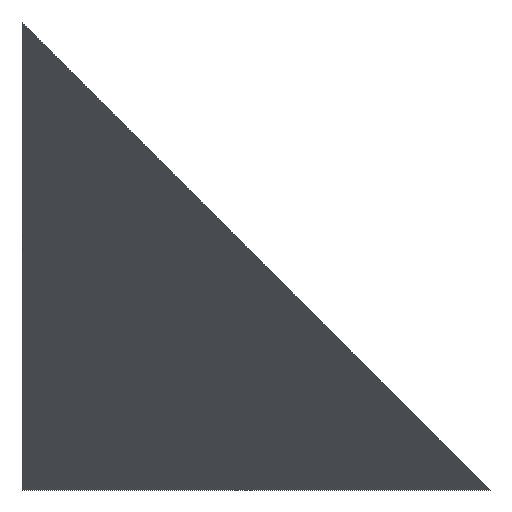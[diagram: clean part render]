
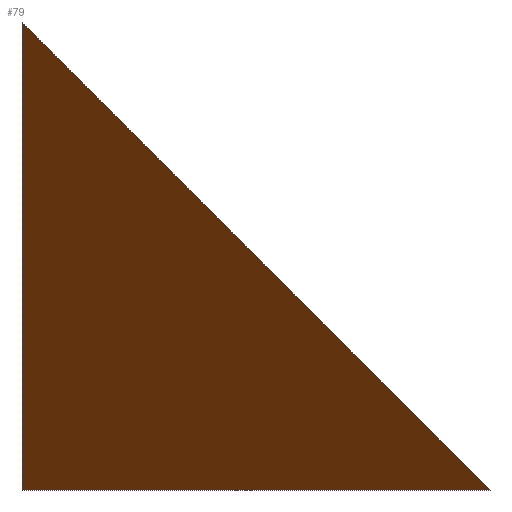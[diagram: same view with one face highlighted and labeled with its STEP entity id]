
A CAD part, front view. The second image highlights one B-rep face of the part: STEP entity #79.
In plain terms, the highlighted planar face has unit normal (0.577, 0.577, 0.577).
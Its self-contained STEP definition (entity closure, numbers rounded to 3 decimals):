
#2=CARTESIAN_POINT('',(10.,0.,0.));
#3=CARTESIAN_POINT('',(0.,10.,0.));
#4=CARTESIAN_POINT('',(0.,0.,10.));
#6=VERTEX_POINT('',#2);
#7=VERTEX_POINT('',#3);
#8=VERTEX_POINT('',#4);
#19=DIRECTION('',(-0.707,0.707,0.));
#20=VECTOR('',#19,1.);
#21=LINE('',#2,#20);
#22=DIRECTION('',(-0.707,0.,0.707));
#23=VECTOR('',#22,1.);
#24=LINE('',#2,#23);
#25=DIRECTION('',(0.,-0.707,0.707));
#26=VECTOR('',#25,1.);
#27=LINE('',#3,#26);
#33=EDGE_CURVE('',#6,#7,#21,.T.);
#34=EDGE_CURVE('',#6,#8,#24,.T.);
#35=EDGE_CURVE('',#7,#8,#27,.T.);
#70=ORIENTED_EDGE('',*,*,#33,.T.);
#71=ORIENTED_EDGE('',*,*,#35,.T.);
#72=ORIENTED_EDGE('',*,*,#34,.F.);
#73=EDGE_LOOP('',(#70,#71,#72));
#74=FACE_OUTER_BOUND('',#73,.T.);
#75=DIRECTION('',(0.577,0.577,0.577));
#76=DIRECTION('',(-0.707,0.707,0.));
#77=AXIS2_PLACEMENT_3D('',#2,#75,#76);
#78=PLANE('',#77);
#79=ADVANCED_FACE('',(#74),#78,.T.);
